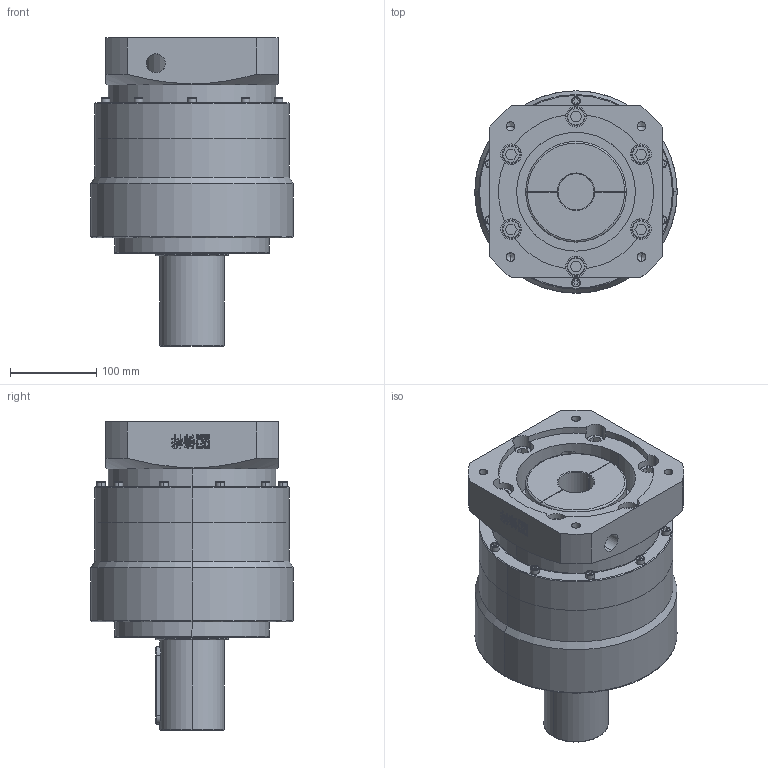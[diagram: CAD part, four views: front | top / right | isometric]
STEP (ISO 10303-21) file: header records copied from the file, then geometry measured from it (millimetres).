
FILE_DESCRIPTION (( 'STEP AP214' ), '1' );
FILE_NAME ('FE235-L1-42-180-215-M12-109.STEP', '2020-03-11T03:24:36', ( '微软用户' ), ( '微软中国' ), 'SwSTEP 2.0', 'SolidWorks 2014', '' );
FILE_SCHEMA (( 'AUTOMOTIVE_DESIGN' ));
Length unit declared in the file: millimetre
Products named in the file (2): FE235-L1-42-180-215-M12-109
Bounding box: 235 x 235 x 358 mm (x, y, z)
Volume: 9451967.8 mm3; surface area: 469139.8 mm2
Topology: 2 solids, 2 shells, 1057 faces, 2876 edges, 1894 vertices
Faces by surface type: plane 776, cylinder 144, bspline 62, torus 48, cone 27
Entity records: 41198 total; most frequent: CARTESIAN_POINT 7730, ORIENTED_EDGE 5716, DIRECTION 5131, EDGE_CURVE 2858, LINE 2285, VECTOR 2285, VERTEX_POINT 1894, AXIS2_PLACEMENT_3D 1423
